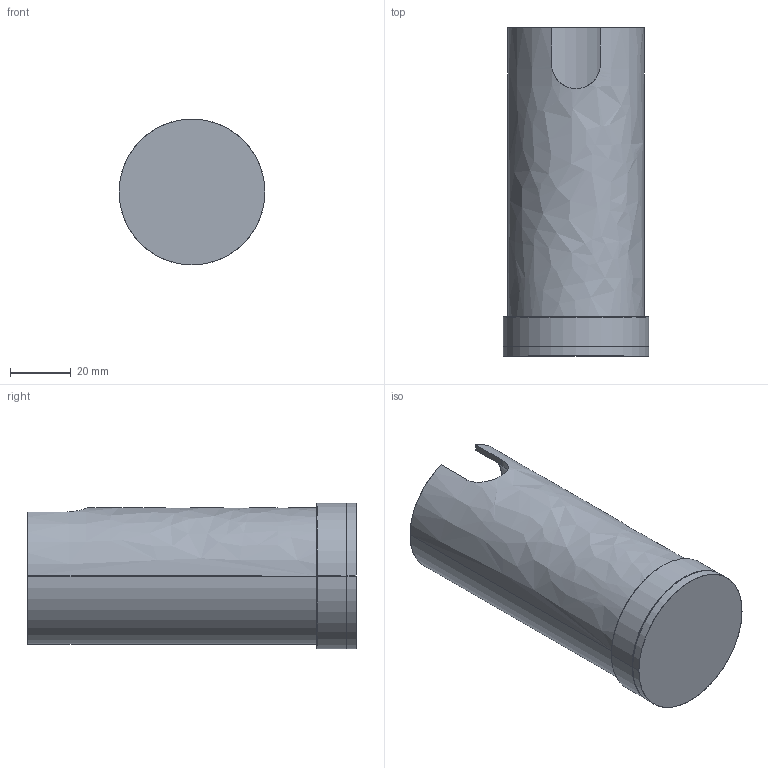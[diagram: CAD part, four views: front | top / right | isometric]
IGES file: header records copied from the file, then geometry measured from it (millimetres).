
Start section: SolidWorks IGES file using analytic representation for surfaces
Global section: file name: \\srvficheros\grupos\DISENYO\DESARROLLO DE PRODUCTO\_3D_WEB\MIURA-E376510\MIURA-E376510.IGS; native system: SolidWorks 2025; preprocessor: SolidWorks 2025; author: d.pons; date: 260114.132210; units: millimetre
Bounding box: 48 x 108 x 48 mm (x, y, z)
Surface area: 44476.5 mm2 (no closed solid volume)
Topology: 0 solids, 0 shells, 284 faces, 7146 edges, 7144 vertices
Faces by surface type: revolution 195, bspline 89
